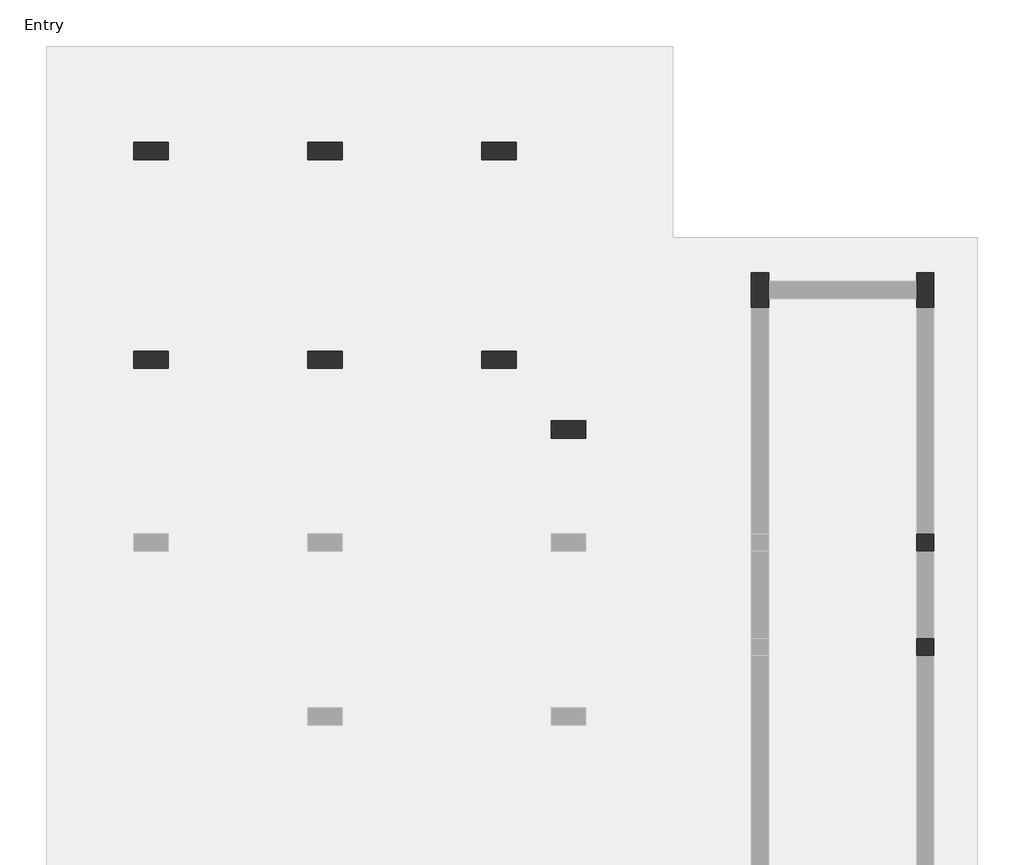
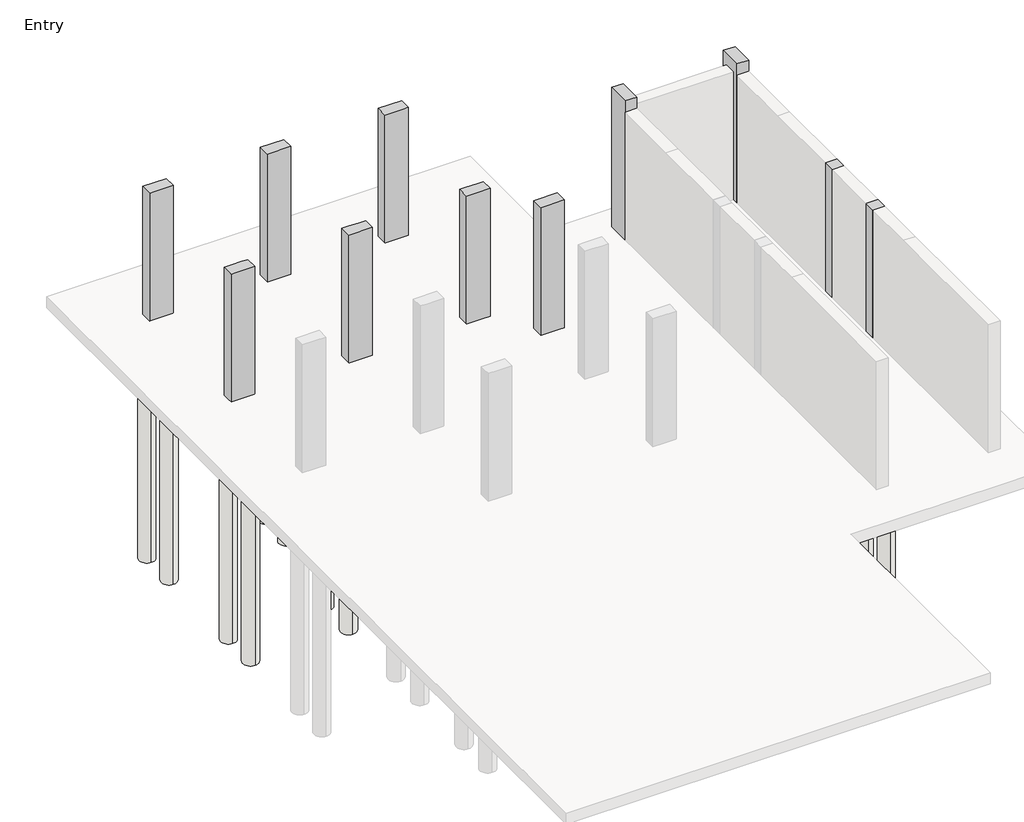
# One storey, part 3 of 3: 35 slabs, 11 columns.
"""IFC4 building model written with IfcOpenShell, lengths in millimetres."""

from ifc_helpers import new_model, si_unit, point, frame, frame_2d, origin, origin_with_axes, place, context, project, spatial, polyline, circle_curve, trimmed, segment, composite_curve, outline, extrude, faceted_brep, element, save

model = new_model("IFC4")

# Units and contexts
model_context = context("Model", 3, world=origin())
ifc_project = project(units=[si_unit("LENGTHUNIT", "METRE", prefix="MILLI")], contexts=[model_context])

# Site, building, storey
site = spatial("IfcSite", under=ifc_project)
building = spatial("IfcBuilding", under=site)
storey = spatial("IfcBuildingStorey", under=building, Name="Entry", Elevation=0.0)

# Columns
placement = place(None, origin())
element("IfcColumn", 1, ObjectType="Concrete-Rectangular-Column : 12 x 24", at=placement, inside=storey, context=model_context, shape_type="Brep", body=[
    faceted_brep([(-20960.8093661, 22401.5691779, 0.0), (-20351.2093661, 22401.5691779, 0.0), (-20351.2093661, 22096.7691779, 0.0), (-20960.8093661, 22096.7691779, 0.0), (-20960.8093661, 22401.5691779, 3505.2), (-20351.2093661, 22401.5691779, 3505.2), (-20351.2093661, 22401.5691779, 2895.6), (-20351.2093661, 22096.7691779, 3505.2), (-20351.2093661, 22096.7691779, 2895.6), (-20503.6093661, 22096.7691779, 3505.2), (-20808.4093661, 22096.7691779, 3505.2), (-20960.8093661, 22096.7691779, 3505.2)], [[[0, 1, 2, 3]], [[4, 5, 6, 1, 0]], [[5, 7, 8, 2, 1, 6]], [[7, 9, 10, 11, 3, 2, 8]], [[11, 4, 0, 3]], [[4, 11, 10, 9, 7, 5]]]),
])
element("IfcColumn", 2, ObjectType="Concrete-Rectangular-Column : 12 x 24", at=placement, inside=storey, context=model_context, shape_type="Brep", body=[
    faceted_brep([(-17912.8093661, 22401.5691779, 0.0), (-17303.2093661, 22401.5691779, 0.0), (-17303.2093661, 22096.7691779, 0.0), (-17912.8093661, 22096.7691779, 0.0), (-17912.8093661, 22401.5691779, 3505.2), (-17303.2093661, 22401.5691779, 3505.2), (-17303.2093661, 22401.5691779, 2895.6), (-17912.8093661, 22401.5691779, 2895.6), (-17303.2093661, 22096.7691779, 3505.2), (-17303.2093661, 22096.7691779, 2895.6), (-17455.6093661, 22096.7691779, 3505.2), (-17760.4093661, 22096.7691779, 3505.2), (-17912.8093661, 22096.7691779, 3505.2), (-17912.8093661, 22096.7691779, 2895.6)], [[[0, 1, 2, 3]], [[4, 5, 6, 1, 0, 7]], [[5, 8, 9, 2, 1, 6]], [[8, 10, 11, 12, 13, 3, 2, 9]], [[12, 4, 7, 0, 3, 13]], [[4, 12, 11, 10, 8, 5]]]),
])
element("IfcColumn", 3, ObjectType="Concrete-Rectangular-Column : 12 x 24", at=placement, inside=storey, context=model_context, shape_type="Brep", body=[
    faceted_brep([(-14864.8093661, 22401.5691779, 0.0), (-14255.2093661, 22401.5691779, 0.0), (-14255.2093661, 22096.7691779, 0.0), (-14864.8093661, 22096.7691779, 0.0), (-14864.8093661, 22401.5691779, 3505.2), (-14255.2093661, 22401.5691779, 3505.2), (-14864.8093661, 22401.5691779, 2895.6), (-14255.2093661, 22096.7691779, 3505.2), (-14407.6093661, 22096.7691779, 3505.2), (-14712.4093661, 22096.7691779, 3505.2), (-14864.8093661, 22096.7691779, 3505.2), (-14864.8093661, 22096.7691779, 2895.6)], [[[0, 1, 2, 3]], [[4, 5, 1, 0, 6]], [[5, 7, 2, 1]], [[7, 8, 9, 10, 11, 3, 2]], [[10, 4, 6, 0, 3, 11]], [[4, 10, 9, 8, 7, 5]]]),
])
element("IfcColumn", 4, ObjectType="Concrete-Rectangular-Column : 12 x 24", at=placement, inside=storey, context=model_context, shape_type="Brep", body=[
    faceted_brep([(-20960.8093661, 18743.9691779, 0.0), (-20351.2093661, 18743.9691779, 0.0), (-20351.2093661, 18439.1691779, 0.0), (-20960.8093661, 18439.1691779, 0.0), (-20960.8093661, 18743.9691779, 3505.2), (-20808.4093661, 18743.9691779, 3505.2), (-20503.6093661, 18743.9691779, 3505.2), (-20351.2093661, 18743.9691779, 3505.2), (-20351.2093661, 18743.9691779, 2895.6), (-20351.2093661, 18439.1691779, 3505.2), (-20351.2093661, 18439.1691779, 2895.6), (-20503.6093661, 18439.1691779, 3505.2), (-20808.4093661, 18439.1691779, 3505.2), (-20960.8093661, 18439.1691779, 3505.2)], [[[0, 1, 2, 3]], [[4, 5, 6, 7, 8, 1, 0]], [[7, 9, 10, 2, 1, 8]], [[9, 11, 12, 13, 3, 2, 10]], [[13, 4, 0, 3]], [[4, 13, 12, 11, 9, 7, 6, 5]]]),
])
element("IfcColumn", 5, ObjectType="Concrete-Rectangular-Column : 12 x 24", at=placement, inside=storey, context=model_context, shape_type="Brep", body=[
    faceted_brep([(-17912.8093661, 18743.9691779, 0.0), (-17303.2093661, 18743.9691779, 0.0), (-17303.2093661, 18439.1691779, 0.0), (-17912.8093661, 18439.1691779, 0.0), (-17912.8093661, 18743.9691779, 3505.2), (-17760.4093661, 18743.9691779, 3505.2), (-17455.6093661, 18743.9691779, 3505.2), (-17303.2093661, 18743.9691779, 3505.2), (-17303.2093661, 18743.9691779, 2895.6), (-17912.8093661, 18743.9691779, 2895.6), (-17303.2093661, 18439.1691779, 3505.2), (-17303.2093661, 18439.1691779, 2895.6), (-17455.6093661, 18439.1691779, 3505.2), (-17760.4093661, 18439.1691779, 3505.2), (-17912.8093661, 18439.1691779, 3505.2), (-17912.8093661, 18439.1691779, 2895.6)], [[[0, 1, 2, 3]], [[4, 5, 6, 7, 8, 1, 0, 9]], [[7, 10, 11, 2, 1, 8]], [[10, 12, 13, 14, 15, 3, 2, 11]], [[14, 4, 9, 0, 3, 15]], [[4, 14, 13, 12, 10, 7, 6, 5]]]),
])
element("IfcColumn", 6, ObjectType="Concrete-Rectangular-Column : 12 x 24", at=placement, inside=storey, context=model_context, shape_type="Brep", body=[
    faceted_brep([(-14864.8093661, 18743.9691779, 0.0), (-14255.2093661, 18743.9691779, 0.0), (-14255.2093661, 18439.1691779, 0.0), (-14864.8093661, 18439.1691779, 0.0), (-14864.8093661, 18743.9691779, 3505.2), (-14712.4093661, 18743.9691779, 3505.2), (-14407.6093661, 18743.9691779, 3505.2), (-14255.2093661, 18743.9691779, 3505.2), (-14864.8093661, 18743.9691779, 2895.6), (-14255.2093661, 18439.1691779, 3505.2), (-14407.6093661, 18439.1691779, 3505.2), (-14712.4093661, 18439.1691779, 3505.2), (-14864.8093661, 18439.1691779, 3505.2), (-14864.8093661, 18439.1691779, 2895.6)], [[[0, 1, 2, 3]], [[4, 5, 6, 7, 1, 0, 8]], [[7, 9, 2, 1]], [[9, 10, 11, 12, 13, 3, 2]], [[12, 4, 8, 0, 3, 13]], [[4, 12, 11, 10, 9, 7, 6, 5]]]),
])
element("IfcColumn", 7, ObjectType="Concrete-Rectangular-Column : 12 x 24", at=placement, inside=storey, context=model_context, shape_type="Brep", body=[
    faceted_brep([(-13645.6093661, 17524.7691779, 0.0), (-13036.0093661, 17524.7691779, 0.0), (-13036.0093661, 17219.9691779, 0.0), (-13645.6093661, 17219.9691779, 0.0), (-13645.6093661, 17524.7691779, 3505.2), (-13036.0093661, 17524.7691779, 3505.2), (-13645.6093661, 17524.7691779, 2895.6), (-13036.0093661, 17219.9691779, 3505.2), (-13188.4093661, 17219.9691779, 3505.2), (-13493.2093661, 17219.9691779, 3505.2), (-13645.6093661, 17219.9691779, 3505.2), (-13645.6093661, 17219.9691779, 2895.6)], [[[0, 1, 2, 3]], [[4, 5, 1, 0, 6]], [[5, 7, 2, 1]], [[7, 8, 9, 10, 11, 3, 2]], [[10, 4, 6, 0, 3, 11]], [[4, 10, 9, 8, 7, 5]]]),
])
element("IfcColumn", 8, ObjectType="Concrete-Rectangular-Column : 12 x 24", at=placement, inside=storey, context=model_context, shape_type="SweptSolid", body=[
    extrude(outline(polyline([(-7244.8093661, 15543.5691779), (-6940.0093661, 15543.5691779), (-6940.0093661, 15238.7691779), (-7244.8093661, 15238.7691779), (-7244.8093661, 15543.5691779)])), origin_with_axes(), (0.0, 0.0, 1.0), 3505.2),
])
element("IfcColumn", 9, ObjectType="Concrete-Rectangular-Column : 12 x 24", at=placement, inside=storey, context=model_context, shape_type="SweptSolid", body=[
    extrude(outline(polyline([(-7244.8093661, 13714.7691779), (-6940.0093661, 13714.7691779), (-6940.0093661, 13409.9691779), (-7244.8093661, 13409.9691779), (-7244.8093661, 13714.7691779)])), origin_with_axes(), (0.0, 0.0, 1.0), 3505.2),
])
element("IfcColumn", 10, ObjectType="Concrete-Rectangular-Column : 12 x 24", at=placement, inside=storey, context=model_context, shape_type="Brep", body=[
    faceted_brep([(-10140.4093661, 19505.9691779, 0.0), (-10140.4093661, 20115.5691779, 0.0), (-9835.6093661, 20115.5691779, 0.0), (-9835.6093661, 19963.1691779, 0.0), (-9835.6093661, 19658.3691779, 0.0), (-9835.6093661, 19505.9691779, 0.0), (-10140.4093661, 19505.9691779, 3810.0), (-10140.4093661, 20115.5691779, 3810.0), (-10140.4093661, 19505.9691779, 3505.2), (-9835.6093661, 20115.5691779, 3810.0), (-9835.6093661, 19505.9691779, 3810.0), (-9835.6093661, 19505.9691779, 3505.2)], [[[0, 1, 2, 3, 4, 5]], [[6, 7, 1, 0, 8]], [[7, 9, 2, 1]], [[9, 10, 11, 5, 4, 3, 2]], [[10, 6, 8, 0, 5, 11]], [[6, 10, 9, 7]]]),
])
element("IfcColumn", 11, ObjectType="Concrete-Rectangular-Column : 12 x 24", at=placement, inside=storey, context=model_context, shape_type="Brep", body=[
    faceted_brep([(-7244.8093661, 19505.9691779, 0.0), (-7244.8093661, 19658.3691779, 0.0), (-7244.8093661, 19963.1691779, 0.0), (-7244.8093661, 20115.5691779, 0.0), (-6940.0093661, 20115.5691779, 0.0), (-6940.0093661, 19505.9691779, 0.0), (-7244.8093661, 19505.9691779, 3810.0), (-7244.8093661, 20115.5691779, 3810.0), (-7244.8093661, 19505.9691779, 3505.2), (-6940.0093661, 20115.5691779, 3810.0), (-6940.0093661, 19505.9691779, 3810.0), (-6940.0093661, 19505.9691779, 3505.2)], [[[0, 1, 2, 3, 4, 5]], [[6, 7, 3, 2, 1, 0, 8]], [[7, 9, 4, 3]], [[9, 10, 11, 5, 4]], [[10, 6, 8, 0, 5, 11]], [[6, 10, 9, 7]]]),
])

# Slabs
element("IfcSlab", 12, ObjectType="Pile Cap-2 Pile : 31\"x61\"x35\"", at=placement, inside=storey, context=model_context, shape_type="SweptSolid", body=[
    extrude(outline(polyline([(-21062.4093661, 23150.8691779), (-20249.6093661, 23150.8691779), (-20249.6093661, 21347.4691779), (-21062.4093661, 21347.4691779), (-21062.4093661, 23150.8691779)])), frame((0.0, 0.0, -889.0), z_axis=(0.0, 0.0, 1.0), x_axis=(1.0, 0.0, 0.0)), (0.0, 0.0, 1.0), 584.2),
])
element("IfcSlab", 13, ObjectType="Pile Cap-2 Pile : 31\"x61\"x35\"", at=placement, inside=storey, context=model_context, shape_type="SweptSolid", body=[
    extrude(outline(polyline([(-18014.4093661, 23150.8691779), (-17201.6093661, 23150.8691779), (-17201.6093661, 21347.4691779), (-18014.4093661, 21347.4691779), (-18014.4093661, 23150.8691779)])), frame((0.0, 0.0, -889.0), z_axis=(0.0, 0.0, 1.0), x_axis=(1.0, 0.0, 0.0)), (0.0, 0.0, 1.0), 584.2),
])
element("IfcSlab", 14, ObjectType="Pile Cap-2 Pile : 31\"x61\"x35\"", at=placement, inside=storey, context=model_context, shape_type="SweptSolid", body=[
    extrude(outline(polyline([(-14966.4093661, 23150.8691779), (-14153.6093661, 23150.8691779), (-14153.6093661, 21347.4691779), (-14966.4093661, 21347.4691779), (-14966.4093661, 23150.8691779)])), frame((0.0, 0.0, -889.0), z_axis=(0.0, 0.0, 1.0), x_axis=(1.0, 0.0, 0.0)), (0.0, 0.0, 1.0), 584.2),
])
element("IfcSlab", 15, ObjectType="Pile Cap-2 Pile : 31\"x61\"x35\"", at=placement, inside=storey, context=model_context, shape_type="SweptSolid", body=[
    extrude(outline(polyline([(-14966.4093661, 19493.2691779), (-14153.6093661, 19493.2691779), (-14153.6093661, 17689.8691779), (-14966.4093661, 17689.8691779), (-14966.4093661, 19493.2691779)])), frame((0.0, 0.0, -889.0), z_axis=(0.0, 0.0, 1.0), x_axis=(1.0, 0.0, 0.0)), (0.0, 0.0, 1.0), 584.2),
])
element("IfcSlab", 16, ObjectType="Pile Cap-2 Pile : 31\"x61\"x35\"", at=placement, inside=storey, context=model_context, shape_type="SweptSolid", body=[
    extrude(outline(polyline([(-21062.4093661, 19493.2691779), (-20249.6093661, 19493.2691779), (-20249.6093661, 17689.8691779), (-21062.4093661, 17689.8691779), (-21062.4093661, 19493.2691779)])), frame((0.0, 0.0, -889.0), z_axis=(0.0, 0.0, 1.0), x_axis=(1.0, 0.0, 0.0)), (0.0, 0.0, 1.0), 584.2),
])
element("IfcSlab", 17, ObjectType="Pile Cap-2 Pile : 31\"x61\"x35\"", at=placement, inside=storey, context=model_context, shape_type="SweptSolid", body=[
    extrude(outline(polyline([(-10889.7093661, 19404.3691779), (-10889.7093661, 20217.1691779), (-9086.3093661, 20217.1691779), (-9086.3093661, 19404.3691779), (-10889.7093661, 19404.3691779)])), frame((0.0, 0.0, -889.0), z_axis=(0.0, 0.0, 1.0), x_axis=(1.0, 0.0, 0.0)), (0.0, 0.0, 1.0), 584.2),
])
element("IfcSlab", 18, ObjectType="Pile Cap-2 Pile : 31\"x61\"x35\"", at=placement, inside=storey, context=model_context, shape_type="SweptSolid", body=[
    extrude(outline(polyline([(-7994.1093661, 19404.3691779), (-7994.1093661, 20217.1691779), (-6190.7093661, 20217.1691779), (-6190.7093661, 19404.3691779), (-7994.1093661, 19404.3691779)])), frame((0.0, 0.0, -889.0), z_axis=(0.0, 0.0, 1.0), x_axis=(1.0, 0.0, 0.0)), (0.0, 0.0, 1.0), 584.2),
])
element("IfcSlab", 19, ObjectType="Pile Cap-2 Pile : 31\"x61\"x35\"", at=placement, inside=storey, context=model_context, shape_type="SweptSolid", body=[
    extrude(outline(polyline([(-7498.8093661, 16292.8691779), (-6686.0093661, 16292.8691779), (-6686.0093661, 14489.4691779), (-7498.8093661, 14489.4691779), (-7498.8093661, 16292.8691779)])), frame((0.0, 0.0, -889.0), z_axis=(0.0, 0.0, 1.0), x_axis=(1.0, 0.0, 0.0)), (0.0, 0.0, 1.0), 584.2),
])
element("IfcSlab", 20, ObjectType="Pile Cap-2 Pile : 31\"x61\"x35\"", at=placement, inside=storey, context=model_context, shape_type="SweptSolid", body=[
    extrude(outline(polyline([(-7498.8093661, 14464.0691779), (-6686.0093661, 14464.0691779), (-6686.0093661, 12660.6691779), (-7498.8093661, 12660.6691779), (-7498.8093661, 14464.0691779)])), frame((0.0, 0.0, -889.0), z_axis=(0.0, 0.0, 1.0), x_axis=(1.0, 0.0, 0.0)), (0.0, 0.0, 1.0), 584.2),
])
element("IfcSlab", 21, ObjectType="Pile Cap-2 Pile : 31\"x61\"x35\"", at=placement, inside=storey, context=model_context, shape_type="SweptSolid", body=[
    extrude(outline(polyline([(-13747.2093661, 18274.0691779), (-12934.4093661, 18274.0691779), (-12934.4093661, 16470.6691779), (-13747.2093661, 16470.6691779), (-13747.2093661, 18274.0691779)])), frame((0.0, 0.0, -889.0), z_axis=(0.0, 0.0, 1.0), x_axis=(1.0, 0.0, 0.0)), (0.0, 0.0, 1.0), 584.2),
])
element("IfcSlab", 22, ObjectType="Pile Cap-4 Pile : 72\"x72\"x35\"", at=placement, inside=storey, context=model_context, shape_type="SweptSolid", body=[
    extrude(outline(polyline([(-18522.4093661, 19505.9691779), (-16693.6093661, 19505.9691779), (-16693.6093661, 17677.1691779), (-18522.4093661, 17677.1691779), (-18522.4093661, 19505.9691779)])), frame((0.0, 0.0, -889.0), z_axis=(0.0, 0.0, 1.0), x_axis=(1.0, 0.0, 0.0)), (0.0, 0.0, 1.0), 584.2),
])
element("IfcSlab", 23, ObjectType="Pile-Steel Pipe : 16\" Diameter", at=placement, inside=storey, context=model_context, shape_type="SweptSolid", body=[
    extrude(outline(composite_curve([segment(trimmed(circle_curve(frame_2d((-18141.4093661, 18058.1691779)), 203.2), [point((-18141.4093661, 17854.9691779))], [point((-18141.4093661, 18261.3691779))], False, "CARTESIAN"), True, "CONTINUOUS"), segment(trimmed(circle_curve(frame_2d((-18141.4093661, 18058.1691779)), 203.2), [point((-18141.4093661, 18261.3691779))], [point((-18141.4093661, 17854.9691779))], False, "CARTESIAN"), True, "CONTINUOUS")], self_intersect=False)), frame((0.0, 0.0, -6985.0), z_axis=(0.0, 0.0, 1.0), x_axis=(1.0, 0.0, 0.0)), (0.0, 0.0, 1.0), 6096.0),
])
element("IfcSlab", 24, ObjectType="Pile-Steel Pipe : 16\" Diameter", at=placement, inside=storey, context=model_context, shape_type="SweptSolid", body=[
    extrude(outline(composite_curve([segment(trimmed(circle_curve(frame_2d((-17074.6093661, 18058.1691779)), 203.2), [point((-17074.6093661, 17854.9691779))], [point((-17074.6093661, 18261.3691779))], False, "CARTESIAN"), True, "CONTINUOUS"), segment(trimmed(circle_curve(frame_2d((-17074.6093661, 18058.1691779)), 203.2), [point((-17074.6093661, 18261.3691779))], [point((-17074.6093661, 17854.9691779))], False, "CARTESIAN"), True, "CONTINUOUS")], self_intersect=False)), frame((0.0, 0.0, -6985.0), z_axis=(0.0, 0.0, 1.0), x_axis=(1.0, 0.0, 0.0)), (0.0, 0.0, 1.0), 6096.0),
])
element("IfcSlab", 25, ObjectType="Pile-Steel Pipe : 16\" Diameter", at=placement, inside=storey, context=model_context, shape_type="SweptSolid", body=[
    extrude(outline(composite_curve([segment(trimmed(circle_curve(frame_2d((-17074.6093661, 19124.9691779)), 203.2), [point((-17074.6093661, 18921.7691779))], [point((-17074.6093661, 19328.1691779))], False, "CARTESIAN"), True, "CONTINUOUS"), segment(trimmed(circle_curve(frame_2d((-17074.6093661, 19124.9691779)), 203.2), [point((-17074.6093661, 19328.1691779))], [point((-17074.6093661, 18921.7691779))], False, "CARTESIAN"), True, "CONTINUOUS")], self_intersect=False)), frame((0.0, 0.0, -6985.0), z_axis=(0.0, 0.0, 1.0), x_axis=(1.0, 0.0, 0.0)), (0.0, 0.0, 1.0), 6096.0),
])
element("IfcSlab", 26, ObjectType="Pile-Steel Pipe : 16\" Diameter", at=placement, inside=storey, context=model_context, shape_type="SweptSolid", body=[
    extrude(outline(composite_curve([segment(trimmed(circle_curve(frame_2d((-18141.4093661, 19124.9691779)), 203.2), [point((-18141.4093661, 18921.7691779))], [point((-18141.4093661, 19328.1691779))], False, "CARTESIAN"), True, "CONTINUOUS"), segment(trimmed(circle_curve(frame_2d((-18141.4093661, 19124.9691779)), 203.2), [point((-18141.4093661, 19328.1691779))], [point((-18141.4093661, 18921.7691779))], False, "CARTESIAN"), True, "CONTINUOUS")], self_intersect=False)), frame((0.0, 0.0, -6985.0), z_axis=(0.0, 0.0, 1.0), x_axis=(1.0, 0.0, 0.0)), (0.0, 0.0, 1.0), 6096.0),
])
element("IfcSlab", 27, ObjectType="Pile-Steel Pipe : 16\" Diameter", at=placement, inside=storey, context=model_context, shape_type="SweptSolid", body=[
    extrude(outline(composite_curve([segment(trimmed(circle_curve(frame_2d((-20656.0093661, 22744.4691779)), 203.2), [point((-20656.0093661, 22541.2691779))], [point((-20656.0093661, 22947.6691779))], False, "CARTESIAN"), True, "CONTINUOUS"), segment(trimmed(circle_curve(frame_2d((-20656.0093661, 22744.4691779)), 203.2), [point((-20656.0093661, 22947.6691779))], [point((-20656.0093661, 22541.2691779))], False, "CARTESIAN"), True, "CONTINUOUS")], self_intersect=False)), frame((0.0, 0.0, -6985.0), z_axis=(0.0, 0.0, 1.0), x_axis=(1.0, 0.0, 0.0)), (0.0, 0.0, 1.0), 6096.0),
])
element("IfcSlab", 28, ObjectType="Pile-Steel Pipe : 16\" Diameter", at=placement, inside=storey, context=model_context, shape_type="SweptSolid", body=[
    extrude(outline(composite_curve([segment(trimmed(circle_curve(frame_2d((-20656.0093661, 21753.8691779)), 203.2), [point((-20656.0093661, 21550.6691779))], [point((-20656.0093661, 21957.0691779))], False, "CARTESIAN"), True, "CONTINUOUS"), segment(trimmed(circle_curve(frame_2d((-20656.0093661, 21753.8691779)), 203.2), [point((-20656.0093661, 21957.0691779))], [point((-20656.0093661, 21550.6691779))], False, "CARTESIAN"), True, "CONTINUOUS")], self_intersect=False)), frame((0.0, 0.0, -6985.0), z_axis=(0.0, 0.0, 1.0), x_axis=(1.0, 0.0, 0.0)), (0.0, 0.0, 1.0), 6096.0),
])
element("IfcSlab", 29, ObjectType="Pile-Steel Pipe : 16\" Diameter", at=placement, inside=storey, context=model_context, shape_type="SweptSolid", body=[
    extrude(outline(composite_curve([segment(trimmed(circle_curve(frame_2d((-17608.0093661, 22744.4691779)), 203.2), [point((-17608.0093661, 22541.2691779))], [point((-17608.0093661, 22947.6691779))], False, "CARTESIAN"), True, "CONTINUOUS"), segment(trimmed(circle_curve(frame_2d((-17608.0093661, 22744.4691779)), 203.2), [point((-17608.0093661, 22947.6691779))], [point((-17608.0093661, 22541.2691779))], False, "CARTESIAN"), True, "CONTINUOUS")], self_intersect=False)), frame((0.0, 0.0, -6985.0), z_axis=(0.0, 0.0, 1.0), x_axis=(1.0, 0.0, 0.0)), (0.0, 0.0, 1.0), 6096.0),
])
element("IfcSlab", 30, ObjectType="Pile-Steel Pipe : 16\" Diameter", at=placement, inside=storey, context=model_context, shape_type="SweptSolid", body=[
    extrude(outline(composite_curve([segment(trimmed(circle_curve(frame_2d((-17608.0093661, 21753.8691779)), 203.2), [point((-17608.0093661, 21550.6691779))], [point((-17608.0093661, 21957.0691779))], False, "CARTESIAN"), True, "CONTINUOUS"), segment(trimmed(circle_curve(frame_2d((-17608.0093661, 21753.8691779)), 203.2), [point((-17608.0093661, 21957.0691779))], [point((-17608.0093661, 21550.6691779))], False, "CARTESIAN"), True, "CONTINUOUS")], self_intersect=False)), frame((0.0, 0.0, -6985.0), z_axis=(0.0, 0.0, 1.0), x_axis=(1.0, 0.0, 0.0)), (0.0, 0.0, 1.0), 6096.0),
])
element("IfcSlab", 31, ObjectType="Pile-Steel Pipe : 16\" Diameter", at=placement, inside=storey, context=model_context, shape_type="SweptSolid", body=[
    extrude(outline(composite_curve([segment(trimmed(circle_curve(frame_2d((-14560.0093661, 22744.4691779)), 203.2), [point((-14560.0093661, 22541.2691779))], [point((-14560.0093661, 22947.6691779))], False, "CARTESIAN"), True, "CONTINUOUS"), segment(trimmed(circle_curve(frame_2d((-14560.0093661, 22744.4691779)), 203.2), [point((-14560.0093661, 22947.6691779))], [point((-14560.0093661, 22541.2691779))], False, "CARTESIAN"), True, "CONTINUOUS")], self_intersect=False)), frame((0.0, 0.0, -6985.0), z_axis=(0.0, 0.0, 1.0), x_axis=(1.0, 0.0, 0.0)), (0.0, 0.0, 1.0), 6096.0),
])
element("IfcSlab", 32, ObjectType="Pile-Steel Pipe : 16\" Diameter", at=placement, inside=storey, context=model_context, shape_type="SweptSolid", body=[
    extrude(outline(composite_curve([segment(trimmed(circle_curve(frame_2d((-14560.0093661, 21753.8691779)), 203.2), [point((-14560.0093661, 21550.6691779))], [point((-14560.0093661, 21957.0691779))], False, "CARTESIAN"), True, "CONTINUOUS"), segment(trimmed(circle_curve(frame_2d((-14560.0093661, 21753.8691779)), 203.2), [point((-14560.0093661, 21957.0691779))], [point((-14560.0093661, 21550.6691779))], False, "CARTESIAN"), True, "CONTINUOUS")], self_intersect=False)), frame((0.0, 0.0, -6985.0), z_axis=(0.0, 0.0, 1.0), x_axis=(1.0, 0.0, 0.0)), (0.0, 0.0, 1.0), 6096.0),
])
element("IfcSlab", 33, ObjectType="Pile-Steel Pipe : 16\" Diameter", at=placement, inside=storey, context=model_context, shape_type="SweptSolid", body=[
    extrude(outline(composite_curve([segment(trimmed(circle_curve(frame_2d((-14560.0093661, 19086.8691779)), 203.2), [point((-14560.0093661, 18883.6691779))], [point((-14560.0093661, 19290.0691779))], False, "CARTESIAN"), True, "CONTINUOUS"), segment(trimmed(circle_curve(frame_2d((-14560.0093661, 19086.8691779)), 203.2), [point((-14560.0093661, 19290.0691779))], [point((-14560.0093661, 18883.6691779))], False, "CARTESIAN"), True, "CONTINUOUS")], self_intersect=False)), frame((0.0, 0.0, -6985.0), z_axis=(0.0, 0.0, 1.0), x_axis=(1.0, 0.0, 0.0)), (0.0, 0.0, 1.0), 6096.0),
])
element("IfcSlab", 34, ObjectType="Pile-Steel Pipe : 16\" Diameter", at=placement, inside=storey, context=model_context, shape_type="SweptSolid", body=[
    extrude(outline(composite_curve([segment(trimmed(circle_curve(frame_2d((-14560.0093661, 18096.2691779)), 203.2), [point((-14560.0093661, 17893.0691779))], [point((-14560.0093661, 18299.4691779))], False, "CARTESIAN"), True, "CONTINUOUS"), segment(trimmed(circle_curve(frame_2d((-14560.0093661, 18096.2691779)), 203.2), [point((-14560.0093661, 18299.4691779))], [point((-14560.0093661, 17893.0691779))], False, "CARTESIAN"), True, "CONTINUOUS")], self_intersect=False)), frame((0.0, 0.0, -6985.0), z_axis=(0.0, 0.0, 1.0), x_axis=(1.0, 0.0, 0.0)), (0.0, 0.0, 1.0), 6096.0),
])
element("IfcSlab", 35, ObjectType="Pile-Steel Pipe : 16\" Diameter", at=placement, inside=storey, context=model_context, shape_type="SweptSolid", body=[
    extrude(outline(composite_curve([segment(trimmed(circle_curve(frame_2d((-20656.0093661, 19086.8691779)), 203.2), [point((-20656.0093661, 18883.6691779))], [point((-20656.0093661, 19290.0691779))], False, "CARTESIAN"), True, "CONTINUOUS"), segment(trimmed(circle_curve(frame_2d((-20656.0093661, 19086.8691779)), 203.2), [point((-20656.0093661, 19290.0691779))], [point((-20656.0093661, 18883.6691779))], False, "CARTESIAN"), True, "CONTINUOUS")], self_intersect=False)), frame((0.0, 0.0, -6985.0), z_axis=(0.0, 0.0, 1.0), x_axis=(1.0, 0.0, 0.0)), (0.0, 0.0, 1.0), 6096.0),
])
element("IfcSlab", 36, ObjectType="Pile-Steel Pipe : 16\" Diameter", at=placement, inside=storey, context=model_context, shape_type="SweptSolid", body=[
    extrude(outline(composite_curve([segment(trimmed(circle_curve(frame_2d((-20656.0093661, 18096.2691779)), 203.2), [point((-20656.0093661, 17893.0691779))], [point((-20656.0093661, 18299.4691779))], False, "CARTESIAN"), True, "CONTINUOUS"), segment(trimmed(circle_curve(frame_2d((-20656.0093661, 18096.2691779)), 203.2), [point((-20656.0093661, 18299.4691779))], [point((-20656.0093661, 17893.0691779))], False, "CARTESIAN"), True, "CONTINUOUS")], self_intersect=False)), frame((0.0, 0.0, -6985.0), z_axis=(0.0, 0.0, 1.0), x_axis=(1.0, 0.0, 0.0)), (0.0, 0.0, 1.0), 6096.0),
])
element("IfcSlab", 37, ObjectType="Pile-Steel Pipe : 16\" Diameter", at=placement, inside=storey, context=model_context, shape_type="SweptSolid", body=[
    extrude(outline(composite_curve([segment(trimmed(circle_curve(frame_2d((-10483.3093661, 19810.7691779)), 203.2), [point((-10280.1093661, 19810.7691779))], [point((-10686.5093661, 19810.7691779))], False, "CARTESIAN"), True, "CONTINUOUS"), segment(trimmed(circle_curve(frame_2d((-10483.3093661, 19810.7691779)), 203.2), [point((-10686.5093661, 19810.7691779))], [point((-10280.1093661, 19810.7691779))], False, "CARTESIAN"), True, "CONTINUOUS")], self_intersect=False)), frame((0.0, 0.0, -6985.0), z_axis=(0.0, 0.0, 1.0), x_axis=(1.0, 0.0, 0.0)), (0.0, 0.0, 1.0), 6096.0),
])
element("IfcSlab", 38, ObjectType="Pile-Steel Pipe : 16\" Diameter", at=placement, inside=storey, context=model_context, shape_type="SweptSolid", body=[
    extrude(outline(composite_curve([segment(trimmed(circle_curve(frame_2d((-9492.7093661, 19810.7691779)), 203.2), [point((-9289.5093661, 19810.7691779))], [point((-9695.9093661, 19810.7691779))], False, "CARTESIAN"), True, "CONTINUOUS"), segment(trimmed(circle_curve(frame_2d((-9492.7093661, 19810.7691779)), 203.2), [point((-9695.9093661, 19810.7691779))], [point((-9289.5093661, 19810.7691779))], False, "CARTESIAN"), True, "CONTINUOUS")], self_intersect=False)), frame((0.0, 0.0, -6985.0), z_axis=(0.0, 0.0, 1.0), x_axis=(1.0, 0.0, 0.0)), (0.0, 0.0, 1.0), 6096.0),
])
element("IfcSlab", 39, ObjectType="Pile-Steel Pipe : 16\" Diameter", at=placement, inside=storey, context=model_context, shape_type="SweptSolid", body=[
    extrude(outline(composite_curve([segment(trimmed(circle_curve(frame_2d((-7587.7093661, 19810.7691779)), 203.2), [point((-7384.5093661, 19810.7691779))], [point((-7790.9093661, 19810.7691779))], False, "CARTESIAN"), True, "CONTINUOUS"), segment(trimmed(circle_curve(frame_2d((-7587.7093661, 19810.7691779)), 203.2), [point((-7790.9093661, 19810.7691779))], [point((-7384.5093661, 19810.7691779))], False, "CARTESIAN"), True, "CONTINUOUS")], self_intersect=False)), frame((0.0, 0.0, -6985.0), z_axis=(0.0, 0.0, 1.0), x_axis=(1.0, 0.0, 0.0)), (0.0, 0.0, 1.0), 6096.0),
])
element("IfcSlab", 40, ObjectType="Pile-Steel Pipe : 16\" Diameter", at=placement, inside=storey, context=model_context, shape_type="SweptSolid", body=[
    extrude(outline(composite_curve([segment(trimmed(circle_curve(frame_2d((-6597.1093661, 19810.7691779)), 203.2), [point((-6393.9093661, 19810.7691779))], [point((-6800.3093661, 19810.7691779))], False, "CARTESIAN"), True, "CONTINUOUS"), segment(trimmed(circle_curve(frame_2d((-6597.1093661, 19810.7691779)), 203.2), [point((-6800.3093661, 19810.7691779))], [point((-6393.9093661, 19810.7691779))], False, "CARTESIAN"), True, "CONTINUOUS")], self_intersect=False)), frame((0.0, 0.0, -6985.0), z_axis=(0.0, 0.0, 1.0), x_axis=(1.0, 0.0, 0.0)), (0.0, 0.0, 1.0), 6096.0),
])
element("IfcSlab", 41, ObjectType="Pile-Steel Pipe : 16\" Diameter", at=placement, inside=storey, context=model_context, shape_type="SweptSolid", body=[
    extrude(outline(composite_curve([segment(trimmed(circle_curve(frame_2d((-7092.4093661, 15886.4691779)), 203.2), [point((-7092.4093661, 15683.2691779))], [point((-7092.4093661, 16089.6691779))], False, "CARTESIAN"), True, "CONTINUOUS"), segment(trimmed(circle_curve(frame_2d((-7092.4093661, 15886.4691779)), 203.2), [point((-7092.4093661, 16089.6691779))], [point((-7092.4093661, 15683.2691779))], False, "CARTESIAN"), True, "CONTINUOUS")], self_intersect=False)), frame((0.0, 0.0, -6985.0), z_axis=(0.0, 0.0, 1.0), x_axis=(1.0, 0.0, 0.0)), (0.0, 0.0, 1.0), 6096.0),
])
element("IfcSlab", 42, ObjectType="Pile-Steel Pipe : 16\" Diameter", at=placement, inside=storey, context=model_context, shape_type="SweptSolid", body=[
    extrude(outline(composite_curve([segment(trimmed(circle_curve(frame_2d((-7092.4093661, 14895.8691779)), 203.2), [point((-7092.4093661, 14692.6691779))], [point((-7092.4093661, 15099.0691779))], False, "CARTESIAN"), True, "CONTINUOUS"), segment(trimmed(circle_curve(frame_2d((-7092.4093661, 14895.8691779)), 203.2), [point((-7092.4093661, 15099.0691779))], [point((-7092.4093661, 14692.6691779))], False, "CARTESIAN"), True, "CONTINUOUS")], self_intersect=False)), frame((0.0, 0.0, -6985.0), z_axis=(0.0, 0.0, 1.0), x_axis=(1.0, 0.0, 0.0)), (0.0, 0.0, 1.0), 6096.0),
])
element("IfcSlab", 43, ObjectType="Pile-Steel Pipe : 16\" Diameter", at=placement, inside=storey, context=model_context, shape_type="SweptSolid", body=[
    extrude(outline(composite_curve([segment(trimmed(circle_curve(frame_2d((-7092.4093661, 14057.6691779)), 203.2), [point((-7092.4093661, 13854.4691779))], [point((-7092.4093661, 14260.8691779))], False, "CARTESIAN"), True, "CONTINUOUS"), segment(trimmed(circle_curve(frame_2d((-7092.4093661, 14057.6691779)), 203.2), [point((-7092.4093661, 14260.8691779))], [point((-7092.4093661, 13854.4691779))], False, "CARTESIAN"), True, "CONTINUOUS")], self_intersect=False)), frame((0.0, 0.0, -6985.0), z_axis=(0.0, 0.0, 1.0), x_axis=(1.0, 0.0, 0.0)), (0.0, 0.0, 1.0), 6096.0),
])
element("IfcSlab", 44, ObjectType="Pile-Steel Pipe : 16\" Diameter", at=placement, inside=storey, context=model_context, shape_type="SweptSolid", body=[
    extrude(outline(composite_curve([segment(trimmed(circle_curve(frame_2d((-7092.4093661, 13067.0691779)), 203.2), [point((-7092.4093661, 12863.8691779))], [point((-7092.4093661, 13270.2691779))], False, "CARTESIAN"), True, "CONTINUOUS"), segment(trimmed(circle_curve(frame_2d((-7092.4093661, 13067.0691779)), 203.2), [point((-7092.4093661, 13270.2691779))], [point((-7092.4093661, 12863.8691779))], False, "CARTESIAN"), True, "CONTINUOUS")], self_intersect=False)), frame((0.0, 0.0, -6985.0), z_axis=(0.0, 0.0, 1.0), x_axis=(1.0, 0.0, 0.0)), (0.0, 0.0, 1.0), 6096.0),
])
element("IfcSlab", 45, ObjectType="Pile-Steel Pipe : 16\" Diameter", at=placement, inside=storey, context=model_context, shape_type="SweptSolid", body=[
    extrude(outline(composite_curve([segment(trimmed(circle_curve(frame_2d((-13340.8093661, 17867.6691779)), 203.2), [point((-13340.8093661, 17664.4691779))], [point((-13340.8093661, 18070.8691779))], False, "CARTESIAN"), True, "CONTINUOUS"), segment(trimmed(circle_curve(frame_2d((-13340.8093661, 17867.6691779)), 203.2), [point((-13340.8093661, 18070.8691779))], [point((-13340.8093661, 17664.4691779))], False, "CARTESIAN"), True, "CONTINUOUS")], self_intersect=False)), frame((0.0, 0.0, -6985.0), z_axis=(0.0, 0.0, 1.0), x_axis=(1.0, 0.0, 0.0)), (0.0, 0.0, 1.0), 6096.0),
])
element("IfcSlab", 46, ObjectType="Pile-Steel Pipe : 16\" Diameter", at=placement, inside=storey, context=model_context, shape_type="SweptSolid", body=[
    extrude(outline(composite_curve([segment(trimmed(circle_curve(frame_2d((-13340.8093661, 16877.0691779)), 203.2), [point((-13340.8093661, 16673.8691779))], [point((-13340.8093661, 17080.2691779))], False, "CARTESIAN"), True, "CONTINUOUS"), segment(trimmed(circle_curve(frame_2d((-13340.8093661, 16877.0691779)), 203.2), [point((-13340.8093661, 17080.2691779))], [point((-13340.8093661, 16673.8691779))], False, "CARTESIAN"), True, "CONTINUOUS")], self_intersect=False)), frame((0.0, 0.0, -6985.0), z_axis=(0.0, 0.0, 1.0), x_axis=(1.0, 0.0, 0.0)), (0.0, 0.0, 1.0), 6096.0),
])

save(model, "model.ifc")
